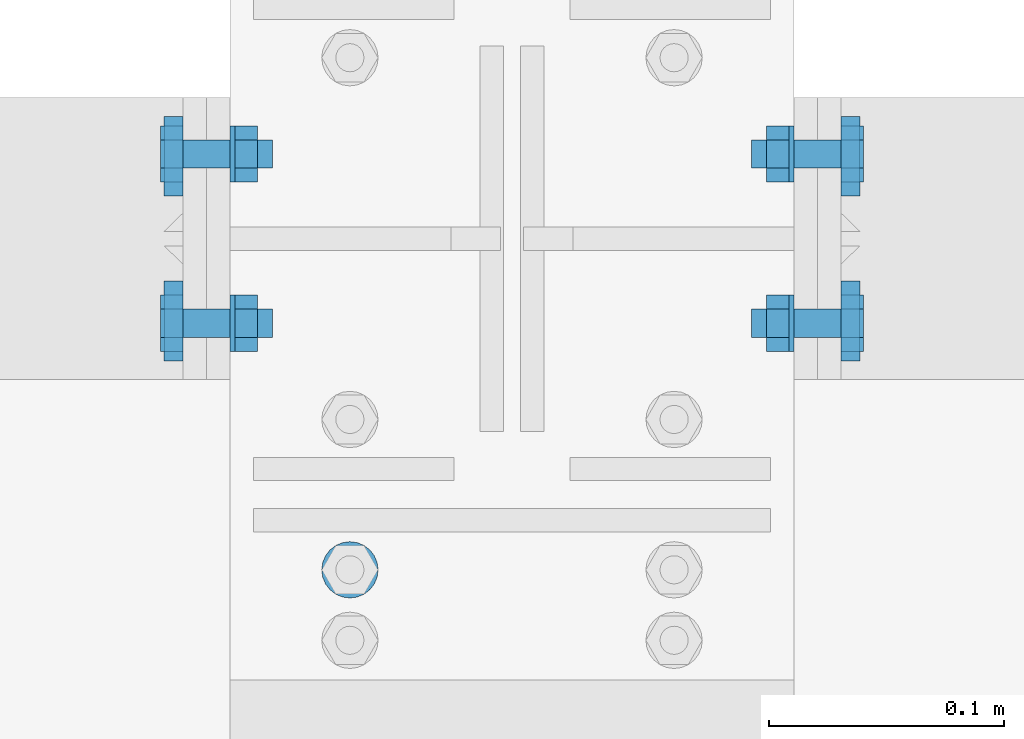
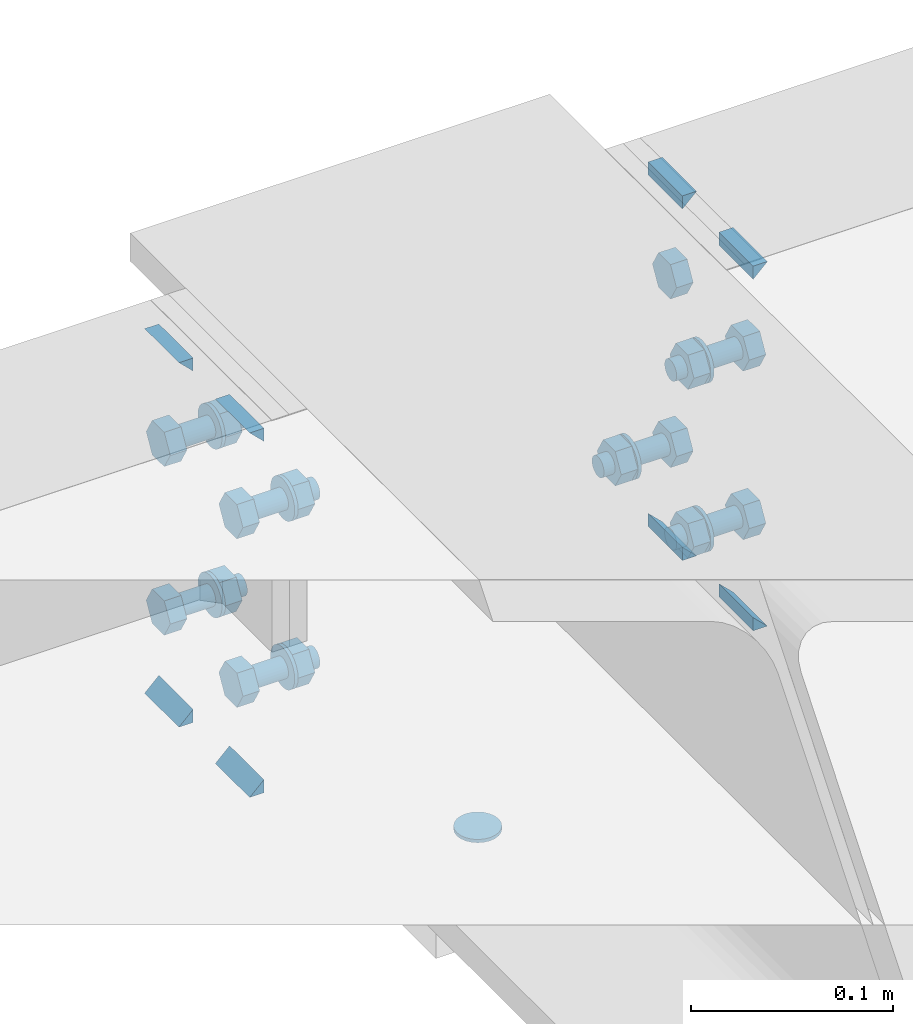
# One storey, part 61 of 66: 30 mechanical fasteners, 16 fasteners.
"""IFC4 building model written with IfcOpenShell, lengths in metres."""

from ifc_helpers import new_model, si_unit, frame, origin_with_axes, place, context, project, spatial, polyline, outline, extrude, type_object, element, save


model = new_model("IFC4")

# Units and contexts
model_context = context("Model", 3, precision=1e-05, world=origin_with_axes())
ifc_project = project(units=[si_unit("LENGTHUNIT", "METRE"), si_unit("AREAUNIT", "SQUARE_METRE"), si_unit("VOLUMEUNIT", "CUBIC_METRE"), si_unit("MASSUNIT", "GRAM", prefix="KILO"), si_unit("TIMEUNIT", "SECOND"), si_unit("PLANEANGLEUNIT", "RADIAN"), si_unit("SOLIDANGLEUNIT", "STERADIAN"), si_unit("THERMODYNAMICTEMPERATUREUNIT", "DEGREE_CELSIUS")], contexts=[model_context])

# Site, building, storey
placement_1 = place(None, origin_with_axes())
site = spatial("IfcSite", under=ifc_project, at=placement_1, Name="Italia", CompositionType="ELEMENT")
building = spatial("IfcBuilding", under=site, at=placement_1, Name="Uffici", CompositionType="ELEMENT")
storey_placement = place(None, frame((0.0, 0.0, 3.299999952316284), z_axis=(0.0, 0.0, 1.0), x_axis=(1.0, 0.0, 0.0)))
storey = spatial("IfcBuildingStorey", under=building, at=storey_placement, Name="Storey 1", CompositionType="ELEMENT", Elevation=3.299999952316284)

# Mechanical fastener
mechanical_fastener_type_1 = type_object("IfcMechanicalFastenerType", Name="Collegamenti 0111_0011 0112_0012 0113_0013 0114_0014 0115_0015", PredefinedType="BOLT")
placement_2 = place(placement_1, origin_with_axes())
mechanical_fastener_1_placement = place(placement_2, origin_with_axes())
element("IfcMechanicalFastener", 1, at=mechanical_fastener_1_placement, inside=storey, type_object=mechanical_fastener_type_1, Name="Collegamenti 0111_0011 0112_0012 0113_0013 0114_0014 0115_0015", NominalDiameter=0.024, context=model_context, shape_type="SweptSolid", body=[
    extrude(outline(polyline([(0.0, 0.0), (-0.000409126, -0.00310612), (-0.00160789, -0.00599957), (-0.00351477, -0.00848484), (-0.00600004, -0.0103922), (-0.00889444, -0.011591), (-0.0120001, -0.0120001), (-0.0151057, -0.011591), (-0.0180001, -0.0103922), (-0.0204854, -0.00848484), (-0.0223923, -0.00599957), (-0.023591, -0.00310612), (-0.0240002, 0.0), (-0.023591, 0.00310612), (-0.0223923, 0.00599957), (-0.0204854, 0.00848484), (-0.0180001, 0.0103922), (-0.0151057, 0.011591), (-0.0120001, 0.0120001), (-0.00889444, 0.011591), (-0.00600004, 0.0103922), (-0.00351477, 0.00848484), (-0.00160789, 0.00599957), (-0.000409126, 0.00310612), (0.0, 0.0)])), frame((9.386, 5.261, 3.079), z_axis=(0.0, 0.0, -1.0), x_axis=(0.0, 1.0, 0.0)), (0.0, 0.0, 1.0), 0.00200009),
])

# Fasteners
fastener_type_1 = type_object("IfcFastenerType", Name="Collegamento 0114_0113", PredefinedType="WELD")
fastener_1_placement = place(placement_2, origin_with_axes())
element("IfcFastener", 2, at=fastener_1_placement, inside=storey, type_object=fastener_type_1, Name="Collegamento 0114_0113", context=model_context, shape_type="SweptSolid", body=[
    extrude(outline(polyline([(0.0, 0.0), (-0.00817299, 0.00792813), (0.0, 0.00792813), (0.0, 0.0)])), frame((9.31505, 5.37195, 3.28232), z_axis=(0.0, -1.0, 0.0), x_axis=(1.0, 0.0, 0.0)), (0.0, 0.0, 1.0), 0.0340004),
])
fastener_type_2 = type_object("IfcFastenerType", Name="Collegamento 0114_0113", PredefinedType="WELD")
fastener_2_placement = place(placement_2, origin_with_axes())
element("IfcFastener", 3, at=fastener_2_placement, inside=storey, type_object=fastener_type_2, Name="Collegamento 0114_0113", context=model_context, shape_type="SweptSolid", body=[
    extrude(outline(polyline([(0.0, 0.0), (0.00817299, -0.00792813), (0.0, -0.00792813), (0.0, 0.0)])), frame((9.31505, 5.33795, 3.07768), z_axis=(0.0, 1.0, 0.0), x_axis=(-1.0, 0.0, 0.0)), (0.0, 0.0, 1.0), 0.0340004),
])
fastener_type_3 = type_object("IfcFastenerType", Name="Collegamento 0114_0113", PredefinedType="WELD")
fastener_3_placement = place(placement_2, origin_with_axes())
element("IfcFastener", 4, at=fastener_3_placement, inside=storey, type_object=fastener_type_3, Name="Collegamento 0114_0113", context=model_context, shape_type="SweptSolid", body=[
    extrude(outline(polyline([(0.0, 0.0), (0.00817299, -0.00792813), (0.0, -0.00792813), (0.0, 0.0)])), frame((9.31505, 5.40805, 3.07768), z_axis=(0.0, 1.0, 0.0), x_axis=(-1.0, 0.0, 0.0)), (0.0, 0.0, 1.0), 0.0340004),
])
fastener_type_4 = type_object("IfcFastenerType", Name="Collegamento 0114_0113", PredefinedType="WELD")
fastener_4_placement = place(placement_2, origin_with_axes())
element("IfcFastener", 5, at=fastener_4_placement, inside=storey, type_object=fastener_type_4, Name="Collegamento 0114_0113", context=model_context, shape_type="SweptSolid", body=[
    extrude(outline(polyline([(0.0, 0.0), (-0.00817299, 0.00792813), (0.0, 0.00792813), (0.0, 0.0)])), frame((9.31505, 5.44205, 3.28232), z_axis=(0.0, -1.0, 0.0), x_axis=(1.0, 0.0, 0.0)), (0.0, 0.0, 1.0), 0.0340004),
])
fastener_type_5 = type_object("IfcFastenerType", Name="Collegamento 0114_0113", PredefinedType="WELD")
fastener_5_placement = place(placement_2, origin_with_axes())
element("IfcFastener", 6, at=fastener_5_placement, inside=storey, type_object=fastener_type_5, Name="Collegamento 0114_0113", context=model_context, shape_type="SweptSolid", body=[
    extrude(outline(polyline([(0.0, 0.0), (-0.00817299, 0.00792813), (0.0, 0.00792813), (0.0, 0.0)])), frame((9.31505, 5.37195, 3.28232), z_axis=(0.0, -1.0, 0.0), x_axis=(1.0, 0.0, 0.0)), (0.0, 0.0, 1.0), 0.0340004),
])
fastener_type_6 = type_object("IfcFastenerType", Name="Collegamento 0114_0113", PredefinedType="WELD")
fastener_6_placement = place(placement_2, origin_with_axes())
element("IfcFastener", 7, at=fastener_6_placement, inside=storey, type_object=fastener_type_6, Name="Collegamento 0114_0113", context=model_context, shape_type="SweptSolid", body=[
    extrude(outline(polyline([(0.0, 0.0), (0.00817299, -0.00792813), (0.0, -0.00792813), (0.0, 0.0)])), frame((9.31505, 5.33795, 3.07768), z_axis=(0.0, 1.0, 0.0), x_axis=(-1.0, 0.0, 0.0)), (0.0, 0.0, 1.0), 0.0340004),
])
fastener_type_7 = type_object("IfcFastenerType", Name="Collegamento 0114_0113", PredefinedType="WELD")
fastener_7_placement = place(placement_2, origin_with_axes())
element("IfcFastener", 8, at=fastener_7_placement, inside=storey, type_object=fastener_type_7, Name="Collegamento 0114_0113", context=model_context, shape_type="SweptSolid", body=[
    extrude(outline(polyline([(0.0, 0.0), (0.00817299, -0.00792813), (0.0, -0.00792813), (0.0, 0.0)])), frame((9.31505, 5.40805, 3.07768), z_axis=(0.0, 1.0, 0.0), x_axis=(-1.0, 0.0, 0.0)), (0.0, 0.0, 1.0), 0.0340004),
])
fastener_type_8 = type_object("IfcFastenerType", Name="Collegamento 0114_0113", PredefinedType="WELD")
fastener_8_placement = place(placement_2, origin_with_axes())
element("IfcFastener", 9, at=fastener_8_placement, inside=storey, type_object=fastener_type_8, Name="Collegamento 0114_0113", context=model_context, shape_type="SweptSolid", body=[
    extrude(outline(polyline([(0.0, 0.0), (-0.00817299, 0.00792813), (0.0, 0.00792813), (0.0, 0.0)])), frame((9.31505, 5.44205, 3.28232), z_axis=(0.0, -1.0, 0.0), x_axis=(1.0, 0.0, 0.0)), (0.0, 0.0, 1.0), 0.0340004),
])

# Mechanical fasteners
mechanical_fastener_type_2 = type_object("IfcMechanicalFastenerType", Name="Collegamento 0114_0113", PredefinedType="BOLT")
mechanical_fastener_2_placement = place(placement_2, origin_with_axes())
element("IfcMechanicalFastener", 10, at=mechanical_fastener_2_placement, inside=storey, type_object=mechanical_fastener_type_2, Name="Collegamento 0114_0113", NominalDiameter=0.0119996, context=model_context, shape_type="SweptSolid", body=[
    extrude(outline(polyline([(0.0, 0.0), (-0.0119996, 0.0), (-0.0179996, 0.0103922), (-0.0119996, 0.0207846), (0.0, 0.0207846), (0.00600004, 0.0103922), (0.0, 0.0)])), frame((9.315, 5.42, 3.11861), z_axis=(-1.0, 0.0, 0.0), x_axis=(0.0, -1.0, 0.0)), (0.0, 0.0, 1.0), 0.00959969),
])
mechanical_fastener_type_3 = type_object("IfcMechanicalFastenerType", Name="Collegamento 0114_0113", PredefinedType="BOLT")
mechanical_fastener_3_placement = place(placement_2, origin_with_axes())
element("IfcMechanicalFastener", 11, at=mechanical_fastener_3_placement, inside=storey, type_object=mechanical_fastener_type_3, Name="Collegamento 0114_0113", NominalDiameter=0.012, context=model_context, shape_type="SweptSolid", body=[
    extrude(outline(polyline([(0.0, 0.0), (-0.000204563, -0.00155282), (-0.000803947, -0.00300002), (-0.00175762, -0.00424266), (-0.00300026, -0.00519609), (-0.00444698, -0.00579548), (-0.00600004, -0.00600004), (-0.0075531, -0.00579548), (-0.00899982, -0.00519609), (-0.0102425, -0.00424266), (-0.0111961, -0.00300002), (-0.0117955, -0.00155282), (-0.0120001, 0.0), (-0.0117955, 0.00155282), (-0.0111961, 0.00300002), (-0.0102425, 0.00424266), (-0.00899982, 0.00519609), (-0.0075531, 0.00579548), (-0.00600004, 0.00600004), (-0.00444698, 0.00579548), (-0.00300026, 0.00519609), (-0.00175762, 0.00424266), (-0.000803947, 0.00300002), (-0.000204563, 0.00155282), (0.0, 0.0)])), frame((9.353, 5.42, 3.129), z_axis=(-1.0, 0.0, 0.0), x_axis=(0.0, -1.0, 0.0)), (0.0, 0.0, 1.0), 0.0380001),
])
mechanical_fastener_type_4 = type_object("IfcMechanicalFastenerType", Name="Collegamento 0114_0113", PredefinedType="BOLT")
mechanical_fastener_4_placement = place(placement_2, origin_with_axes())
element("IfcMechanicalFastener", 12, at=mechanical_fastener_4_placement, inside=storey, type_object=mechanical_fastener_type_4, Name="Collegamento 0114_0113", NominalDiameter=0.0119996, context=model_context, shape_type="SweptSolid", body=[
    extrude(outline(polyline([(0.0, 0.0), (-0.0119996, 0.0), (-0.0179996, 0.0103922), (-0.0119996, 0.0207846), (0.0, 0.0207846), (0.00600004, 0.0103922), (0.0, 0.0)])), frame((9.3466, 5.42, 3.11861), z_axis=(-1.0, 0.0, 0.0), x_axis=(0.0, -1.0, 0.0)), (0.0, 0.0, 1.0), 0.00959969),
])
mechanical_fastener_type_5 = type_object("IfcMechanicalFastenerType", Name="Collegamento 0114_0113", PredefinedType="BOLT")
mechanical_fastener_5_placement = place(placement_2, origin_with_axes())
element("IfcMechanicalFastener", 13, at=mechanical_fastener_5_placement, inside=storey, type_object=mechanical_fastener_type_5, Name="Collegamento 0114_0113", NominalDiameter=0.024, context=model_context, shape_type="SweptSolid", body=[
    extrude(outline(polyline([(0.0, 0.0), (-0.000409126, -0.00310588), (-0.00160789, -0.00600004), (-0.00351477, -0.00848532), (-0.00600004, -0.0103922), (-0.00889444, -0.0115912), (-0.0120001, -0.0120001), (-0.0151057, -0.0115912), (-0.0180001, -0.0103922), (-0.0204854, -0.00848532), (-0.0223923, -0.00600004), (-0.023591, -0.00310588), (-0.0240002, 0.0), (-0.023591, 0.00310588), (-0.0223923, 0.00600004), (-0.0204854, 0.00848532), (-0.0180001, 0.0103922), (-0.0151057, 0.0115912), (-0.0120001, 0.0120001), (-0.00889444, 0.0115912), (-0.00600004, 0.0103922), (-0.00351477, 0.00848532), (-0.00160789, 0.00600004), (-0.000409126, 0.00310588), (0.0, 0.0)])), frame((9.337, 5.414, 3.129), z_axis=(-1.0, 0.0, 0.0), x_axis=(0.0, -1.0, 0.0)), (0.0, 0.0, 1.0), 0.00199986),
])
mechanical_fastener_type_6 = type_object("IfcMechanicalFastenerType", Name="Collegamento 0114_0113", PredefinedType="BOLT")
mechanical_fastener_6_placement = place(placement_2, origin_with_axes())
element("IfcMechanicalFastener", 14, at=mechanical_fastener_6_placement, inside=storey, type_object=mechanical_fastener_type_6, Name="Collegamento 0114_0113", NominalDiameter=0.0119996, context=model_context, shape_type="SweptSolid", body=[
    extrude(outline(polyline([(0.0, 0.0), (-0.0119996, 0.0), (-0.0179996, 0.0103922), (-0.0119996, 0.0207846), (0.0, 0.0207846), (0.00600004, 0.0103922), (0.0, 0.0)])), frame((9.315, 5.348, 3.11861), z_axis=(-1.0, 0.0, 0.0), x_axis=(0.0, -1.0, 0.0)), (0.0, 0.0, 1.0), 0.00959969),
])
mechanical_fastener_type_7 = type_object("IfcMechanicalFastenerType", Name="Collegamento 0114_0113", PredefinedType="BOLT")
mechanical_fastener_7_placement = place(placement_2, origin_with_axes())
element("IfcMechanicalFastener", 15, at=mechanical_fastener_7_placement, inside=storey, type_object=mechanical_fastener_type_7, Name="Collegamento 0114_0113", NominalDiameter=0.012, context=model_context, shape_type="SweptSolid", body=[
    extrude(outline(polyline([(0.0, 0.0), (-0.000204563, -0.00155282), (-0.000803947, -0.00300002), (-0.00175762, -0.00424266), (-0.00300026, -0.00519609), (-0.00444698, -0.00579548), (-0.00600004, -0.00600004), (-0.0075531, -0.00579548), (-0.00899982, -0.00519609), (-0.0102425, -0.00424266), (-0.0111961, -0.00300002), (-0.0117955, -0.00155282), (-0.0120001, 0.0), (-0.0117955, 0.00155282), (-0.0111961, 0.00300002), (-0.0102425, 0.00424266), (-0.00899982, 0.00519609), (-0.0075531, 0.00579548), (-0.00600004, 0.00600004), (-0.00444698, 0.00579548), (-0.00300026, 0.00519609), (-0.00175762, 0.00424266), (-0.000803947, 0.00300002), (-0.000204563, 0.00155282), (0.0, 0.0)])), frame((9.353, 5.348, 3.129), z_axis=(-1.0, 0.0, 0.0), x_axis=(0.0, -1.0, 0.0)), (0.0, 0.0, 1.0), 0.0380001),
])
mechanical_fastener_type_8 = type_object("IfcMechanicalFastenerType", Name="Collegamento 0114_0113", PredefinedType="BOLT")
mechanical_fastener_8_placement = place(placement_2, origin_with_axes())
element("IfcMechanicalFastener", 16, at=mechanical_fastener_8_placement, inside=storey, type_object=mechanical_fastener_type_8, Name="Collegamento 0114_0113", NominalDiameter=0.0119996, context=model_context, shape_type="SweptSolid", body=[
    extrude(outline(polyline([(0.0, 0.0), (-0.0119996, 0.0), (-0.0179996, 0.0103922), (-0.0119996, 0.0207846), (0.0, 0.0207846), (0.00600004, 0.0103922), (0.0, 0.0)])), frame((9.3466, 5.348, 3.11861), z_axis=(-1.0, 0.0, 0.0), x_axis=(0.0, -1.0, 0.0)), (0.0, 0.0, 1.0), 0.00959969),
])
mechanical_fastener_type_9 = type_object("IfcMechanicalFastenerType", Name="Collegamento 0114_0113", PredefinedType="BOLT")
mechanical_fastener_9_placement = place(placement_2, origin_with_axes())
element("IfcMechanicalFastener", 17, at=mechanical_fastener_9_placement, inside=storey, type_object=mechanical_fastener_type_9, Name="Collegamento 0114_0113", NominalDiameter=0.024, context=model_context, shape_type="SweptSolid", body=[
    extrude(outline(polyline([(0.0, 0.0), (-0.000409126, -0.00310588), (-0.00160789, -0.00600004), (-0.00351477, -0.00848532), (-0.00600004, -0.0103922), (-0.00889444, -0.0115912), (-0.0120001, -0.0120001), (-0.0151057, -0.0115912), (-0.0180001, -0.0103922), (-0.0204854, -0.00848532), (-0.0223923, -0.00600004), (-0.023591, -0.00310588), (-0.0240002, 0.0), (-0.023591, 0.00310588), (-0.0223923, 0.00600004), (-0.0204854, 0.00848532), (-0.0180001, 0.0103922), (-0.0151057, 0.0115912), (-0.0120001, 0.0120001), (-0.00889444, 0.0115912), (-0.00600004, 0.0103922), (-0.00351477, 0.00848532), (-0.00160789, 0.00600004), (-0.000409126, 0.00310588), (0.0, 0.0)])), frame((9.337, 5.342, 3.129), z_axis=(-1.0, 0.0, 0.0), x_axis=(0.0, -1.0, 0.0)), (0.0, 0.0, 1.0), 0.00199986),
])
mechanical_fastener_type_10 = type_object("IfcMechanicalFastenerType", Name="Collegamento 0114_0113", PredefinedType="BOLT")
mechanical_fastener_10_placement = place(placement_2, origin_with_axes())
element("IfcMechanicalFastener", 18, at=mechanical_fastener_10_placement, inside=storey, type_object=mechanical_fastener_type_10, Name="Collegamento 0114_0113", NominalDiameter=0.0119996, context=model_context, shape_type="SweptSolid", body=[
    extrude(outline(polyline([(0.0, 0.0), (-0.0119996, 0.0), (-0.0179996, 0.0103924), (-0.0119996, 0.0207846), (0.0, 0.0207846), (0.00600004, 0.0103924), (0.0, 0.0)])), frame((9.315, 5.42, 3.22061), z_axis=(-1.0, 0.0, 0.0), x_axis=(0.0, -1.0, 0.0)), (0.0, 0.0, 1.0), 0.00959969),
])
mechanical_fastener_type_11 = type_object("IfcMechanicalFastenerType", Name="Collegamento 0114_0113", PredefinedType="BOLT")
mechanical_fastener_11_placement = place(placement_2, origin_with_axes())
element("IfcMechanicalFastener", 19, at=mechanical_fastener_11_placement, inside=storey, type_object=mechanical_fastener_type_11, Name="Collegamento 0114_0113", NominalDiameter=0.012, context=model_context, shape_type="SweptSolid", body=[
    extrude(outline(polyline([(0.0, 0.0), (-0.000204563, -0.00155282), (-0.000803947, -0.00300002), (-0.00175762, -0.00424266), (-0.00300026, -0.00519609), (-0.00444698, -0.00579548), (-0.00600004, -0.00600004), (-0.0075531, -0.00579548), (-0.00899982, -0.00519609), (-0.0102425, -0.00424266), (-0.0111961, -0.00300002), (-0.0117955, -0.00155282), (-0.0120001, 0.0), (-0.0117955, 0.00155282), (-0.0111961, 0.00300002), (-0.0102425, 0.00424266), (-0.00899982, 0.00519609), (-0.0075531, 0.00579548), (-0.00600004, 0.00600004), (-0.00444698, 0.00579548), (-0.00300026, 0.00519609), (-0.00175762, 0.00424266), (-0.000803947, 0.00300002), (-0.000204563, 0.00155282), (0.0, 0.0)])), frame((9.353, 5.42, 3.231), z_axis=(-1.0, 0.0, 0.0), x_axis=(0.0, -1.0, 0.0)), (0.0, 0.0, 1.0), 0.0380001),
])
mechanical_fastener_type_12 = type_object("IfcMechanicalFastenerType", Name="Collegamento 0114_0113", PredefinedType="BOLT")
mechanical_fastener_12_placement = place(placement_2, origin_with_axes())
element("IfcMechanicalFastener", 20, at=mechanical_fastener_12_placement, inside=storey, type_object=mechanical_fastener_type_12, Name="Collegamento 0114_0113", NominalDiameter=0.0119996, context=model_context, shape_type="SweptSolid", body=[
    extrude(outline(polyline([(0.0, 0.0), (-0.0119996, 0.0), (-0.0179996, 0.0103924), (-0.0119996, 0.0207846), (0.0, 0.0207846), (0.00600004, 0.0103924), (0.0, 0.0)])), frame((9.3466, 5.42, 3.22061), z_axis=(-1.0, 0.0, 0.0), x_axis=(0.0, -1.0, 0.0)), (0.0, 0.0, 1.0), 0.00959969),
])
mechanical_fastener_type_13 = type_object("IfcMechanicalFastenerType", Name="Collegamento 0114_0113", PredefinedType="BOLT")
mechanical_fastener_13_placement = place(placement_2, origin_with_axes())
element("IfcMechanicalFastener", 21, at=mechanical_fastener_13_placement, inside=storey, type_object=mechanical_fastener_type_13, Name="Collegamento 0114_0113", NominalDiameter=0.024, context=model_context, shape_type="SweptSolid", body=[
    extrude(outline(polyline([(0.0, 0.0), (-0.000409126, -0.00310588), (-0.00160789, -0.00600004), (-0.00351477, -0.00848532), (-0.00600004, -0.0103922), (-0.00889444, -0.0115912), (-0.0120001, -0.0120001), (-0.0151057, -0.0115912), (-0.0180001, -0.0103922), (-0.0204854, -0.00848532), (-0.0223923, -0.00600004), (-0.023591, -0.00310588), (-0.0240002, 0.0), (-0.023591, 0.00310588), (-0.0223923, 0.00600004), (-0.0204854, 0.00848532), (-0.0180001, 0.0103922), (-0.0151057, 0.0115912), (-0.0120001, 0.0120001), (-0.00889444, 0.0115912), (-0.00600004, 0.0103922), (-0.00351477, 0.00848532), (-0.00160789, 0.00600004), (-0.000409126, 0.00310588), (0.0, 0.0)])), frame((9.337, 5.414, 3.231), z_axis=(-1.0, 0.0, 0.0), x_axis=(0.0, -1.0, 0.0)), (0.0, 0.0, 1.0), 0.00199986),
])
mechanical_fastener_type_14 = type_object("IfcMechanicalFastenerType", Name="Collegamento 0114_0113", PredefinedType="BOLT")
mechanical_fastener_14_placement = place(placement_2, origin_with_axes())
element("IfcMechanicalFastener", 22, at=mechanical_fastener_14_placement, inside=storey, type_object=mechanical_fastener_type_14, Name="Collegamento 0114_0113", NominalDiameter=0.0119996, context=model_context, shape_type="SweptSolid", body=[
    extrude(outline(polyline([(0.0, 0.0), (-0.0119996, 0.0), (-0.0179996, 0.0103924), (-0.0119996, 0.0207846), (0.0, 0.0207846), (0.00600004, 0.0103924), (0.0, 0.0)])), frame((9.315, 5.348, 3.22061), z_axis=(-1.0, 0.0, 0.0), x_axis=(0.0, -1.0, 0.0)), (0.0, 0.0, 1.0), 0.00959969),
])
mechanical_fastener_type_15 = type_object("IfcMechanicalFastenerType", Name="Collegamento 0114_0113", PredefinedType="BOLT")
mechanical_fastener_15_placement = place(placement_2, origin_with_axes())
element("IfcMechanicalFastener", 23, at=mechanical_fastener_15_placement, inside=storey, type_object=mechanical_fastener_type_15, Name="Collegamento 0114_0113", NominalDiameter=0.012, context=model_context, shape_type="SweptSolid", body=[
    extrude(outline(polyline([(0.0, 0.0), (-0.000204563, -0.00155282), (-0.000803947, -0.00300002), (-0.00175762, -0.00424266), (-0.00300026, -0.00519609), (-0.00444698, -0.00579548), (-0.00600004, -0.00600004), (-0.0075531, -0.00579548), (-0.00899982, -0.00519609), (-0.0102425, -0.00424266), (-0.0111961, -0.00300002), (-0.0117955, -0.00155282), (-0.0120001, 0.0), (-0.0117955, 0.00155282), (-0.0111961, 0.00300002), (-0.0102425, 0.00424266), (-0.00899982, 0.00519609), (-0.0075531, 0.00579548), (-0.00600004, 0.00600004), (-0.00444698, 0.00579548), (-0.00300026, 0.00519609), (-0.00175762, 0.00424266), (-0.000803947, 0.00300002), (-0.000204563, 0.00155282), (0.0, 0.0)])), frame((9.353, 5.348, 3.231), z_axis=(-1.0, 0.0, 0.0), x_axis=(0.0, -1.0, 0.0)), (0.0, 0.0, 1.0), 0.0380001),
])
mechanical_fastener_type_16 = type_object("IfcMechanicalFastenerType", Name="Collegamento 0114_0113", PredefinedType="BOLT")
mechanical_fastener_16_placement = place(placement_2, origin_with_axes())
element("IfcMechanicalFastener", 24, at=mechanical_fastener_16_placement, inside=storey, type_object=mechanical_fastener_type_16, Name="Collegamento 0114_0113", NominalDiameter=0.0119996, context=model_context, shape_type="SweptSolid", body=[
    extrude(outline(polyline([(0.0, 0.0), (-0.0119996, 0.0), (-0.0179996, 0.0103924), (-0.0119996, 0.0207846), (0.0, 0.0207846), (0.00600004, 0.0103924), (0.0, 0.0)])), frame((9.3466, 5.348, 3.22061), z_axis=(-1.0, 0.0, 0.0), x_axis=(0.0, -1.0, 0.0)), (0.0, 0.0, 1.0), 0.00959969),
])
mechanical_fastener_type_17 = type_object("IfcMechanicalFastenerType", Name="Collegamento 0114_0113", PredefinedType="BOLT")
mechanical_fastener_17_placement = place(placement_2, origin_with_axes())
element("IfcMechanicalFastener", 25, at=mechanical_fastener_17_placement, inside=storey, type_object=mechanical_fastener_type_17, Name="Collegamento 0114_0113", NominalDiameter=0.024, context=model_context, shape_type="SweptSolid", body=[
    extrude(outline(polyline([(0.0, 0.0), (-0.000409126, -0.00310588), (-0.00160789, -0.00600004), (-0.00351477, -0.00848532), (-0.00600004, -0.0103922), (-0.00889444, -0.0115912), (-0.0120001, -0.0120001), (-0.0151057, -0.0115912), (-0.0180001, -0.0103922), (-0.0204854, -0.00848532), (-0.0223923, -0.00600004), (-0.023591, -0.00310588), (-0.0240002, 0.0), (-0.023591, 0.00310588), (-0.0223923, 0.00600004), (-0.0204854, 0.00848532), (-0.0180001, 0.0103922), (-0.0151057, 0.0115912), (-0.0120001, 0.0120001), (-0.00889444, 0.0115912), (-0.00600004, 0.0103922), (-0.00351477, 0.00848532), (-0.00160789, 0.00600004), (-0.000409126, 0.00310588), (0.0, 0.0)])), frame((9.337, 5.342, 3.231), z_axis=(-1.0, 0.0, 0.0), x_axis=(0.0, -1.0, 0.0)), (0.0, 0.0, 1.0), 0.00199986),
])

# Fasteners
fastener_type_9 = type_object("IfcFastenerType", Name="Collegamento 0114_0115", PredefinedType="WELD")
fastener_9_placement = place(placement_2, origin_with_axes())
element("IfcFastener", 26, at=fastener_9_placement, inside=storey, type_object=fastener_type_9, Name="Collegamento 0114_0115", context=model_context, shape_type="SweptSolid", body=[
    extrude(outline(polyline([(0.0, 0.0), (-0.00817299, 0.00792813), (0.0, 0.00792813), (0.0, 0.0)])), frame((9.59495, 5.33795, 3.28232), z_axis=(0.0, 1.0, 0.0), x_axis=(-1.0, 0.0, 0.0)), (0.0, 0.0, 1.0), 0.0340004),
])
fastener_type_10 = type_object("IfcFastenerType", Name="Collegamento 0114_0115", PredefinedType="WELD")
fastener_10_placement = place(placement_2, origin_with_axes())
element("IfcFastener", 27, at=fastener_10_placement, inside=storey, type_object=fastener_type_10, Name="Collegamento 0114_0115", context=model_context, shape_type="SweptSolid", body=[
    extrude(outline(polyline([(0.0, 0.0), (0.00817299, -0.00792813), (0.0, -0.00792813), (0.0, 0.0)])), frame((9.59495, 5.37195, 3.07768), z_axis=(0.0, -1.0, 0.0), x_axis=(1.0, 0.0, 0.0)), (0.0, 0.0, 1.0), 0.0340004),
])
fastener_type_11 = type_object("IfcFastenerType", Name="Collegamento 0114_0115", PredefinedType="WELD")
fastener_11_placement = place(placement_2, origin_with_axes())
element("IfcFastener", 28, at=fastener_11_placement, inside=storey, type_object=fastener_type_11, Name="Collegamento 0114_0115", context=model_context, shape_type="SweptSolid", body=[
    extrude(outline(polyline([(0.0, 0.0), (0.00817299, -0.00792813), (0.0, -0.00792813), (0.0, 0.0)])), frame((9.59495, 5.44205, 3.07768), z_axis=(0.0, -1.0, 0.0), x_axis=(1.0, 0.0, 0.0)), (0.0, 0.0, 1.0), 0.0340004),
])
fastener_type_12 = type_object("IfcFastenerType", Name="Collegamento 0114_0115", PredefinedType="WELD")
fastener_12_placement = place(placement_2, origin_with_axes())
element("IfcFastener", 29, at=fastener_12_placement, inside=storey, type_object=fastener_type_12, Name="Collegamento 0114_0115", context=model_context, shape_type="SweptSolid", body=[
    extrude(outline(polyline([(0.0, 0.0), (-0.00817299, 0.00792813), (0.0, 0.00792813), (0.0, 0.0)])), frame((9.59495, 5.40805, 3.28232), z_axis=(0.0, 1.0, 0.0), x_axis=(-1.0, 0.0, 0.0)), (0.0, 0.0, 1.0), 0.0340004),
])
fastener_type_13 = type_object("IfcFastenerType", Name="Collegamento 0114_0115", PredefinedType="WELD")
fastener_13_placement = place(placement_2, origin_with_axes())
element("IfcFastener", 30, at=fastener_13_placement, inside=storey, type_object=fastener_type_13, Name="Collegamento 0114_0115", context=model_context, shape_type="SweptSolid", body=[
    extrude(outline(polyline([(0.0, 0.0), (-0.00817299, 0.00792813), (0.0, 0.00792813), (0.0, 0.0)])), frame((9.59495, 5.33795, 3.28232), z_axis=(0.0, 1.0, 0.0), x_axis=(-1.0, 0.0, 0.0)), (0.0, 0.0, 1.0), 0.0340004),
])
fastener_type_14 = type_object("IfcFastenerType", Name="Collegamento 0114_0115", PredefinedType="WELD")
fastener_14_placement = place(placement_2, origin_with_axes())
element("IfcFastener", 31, at=fastener_14_placement, inside=storey, type_object=fastener_type_14, Name="Collegamento 0114_0115", context=model_context, shape_type="SweptSolid", body=[
    extrude(outline(polyline([(0.0, 0.0), (0.00817299, -0.00792813), (0.0, -0.00792813), (0.0, 0.0)])), frame((9.59495, 5.37195, 3.07768), z_axis=(0.0, -1.0, 0.0), x_axis=(1.0, 0.0, 0.0)), (0.0, 0.0, 1.0), 0.0340004),
])
fastener_type_15 = type_object("IfcFastenerType", Name="Collegamento 0114_0115", PredefinedType="WELD")
fastener_15_placement = place(placement_2, origin_with_axes())
element("IfcFastener", 32, at=fastener_15_placement, inside=storey, type_object=fastener_type_15, Name="Collegamento 0114_0115", context=model_context, shape_type="SweptSolid", body=[
    extrude(outline(polyline([(0.0, 0.0), (0.00817299, -0.00792813), (0.0, -0.00792813), (0.0, 0.0)])), frame((9.59495, 5.44205, 3.07768), z_axis=(0.0, -1.0, 0.0), x_axis=(1.0, 0.0, 0.0)), (0.0, 0.0, 1.0), 0.0340004),
])
fastener_type_16 = type_object("IfcFastenerType", Name="Collegamento 0114_0115", PredefinedType="WELD")
fastener_16_placement = place(placement_2, origin_with_axes())
element("IfcFastener", 33, at=fastener_16_placement, inside=storey, type_object=fastener_type_16, Name="Collegamento 0114_0115", context=model_context, shape_type="SweptSolid", body=[
    extrude(outline(polyline([(0.0, 0.0), (-0.00817299, 0.00792813), (0.0, 0.00792813), (0.0, 0.0)])), frame((9.59495, 5.40805, 3.28232), z_axis=(0.0, 1.0, 0.0), x_axis=(-1.0, 0.0, 0.0)), (0.0, 0.0, 1.0), 0.0340004),
])

# Mechanical fasteners
mechanical_fastener_type_18 = type_object("IfcMechanicalFastenerType", Name="Collegamento 0114_0115", PredefinedType="BOLT")
mechanical_fastener_18_placement = place(placement_2, origin_with_axes())
element("IfcMechanicalFastener", 34, at=mechanical_fastener_18_placement, inside=storey, type_object=mechanical_fastener_type_18, Name="Collegamento 0114_0115", NominalDiameter=0.0119996, context=model_context, shape_type="SweptSolid", body=[
    extrude(outline(polyline([(0.0, 0.0), (-0.0119996, 0.0), (-0.0179996, 0.0103922), (-0.0119996, 0.0207846), (0.0, 0.0207846), (0.00600004, 0.0103922), (0.0, 0.0)])), frame((9.595, 5.36, 3.11861), z_axis=(1.0, 0.0, 0.0), x_axis=(0.0, 1.0, 0.0)), (0.0, 0.0, 1.0), 0.00959969),
])
mechanical_fastener_type_19 = type_object("IfcMechanicalFastenerType", Name="Collegamento 0114_0115", PredefinedType="BOLT")
mechanical_fastener_19_placement = place(placement_2, origin_with_axes())
element("IfcMechanicalFastener", 35, at=mechanical_fastener_19_placement, inside=storey, type_object=mechanical_fastener_type_19, Name="Collegamento 0114_0115", NominalDiameter=0.012, context=model_context, shape_type="SweptSolid", body=[
    extrude(outline(polyline([(0.0, 0.0), (-0.000204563, -0.00155282), (-0.000803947, -0.00300002), (-0.00175762, -0.00424266), (-0.00300026, -0.00519609), (-0.00444698, -0.00579548), (-0.00600004, -0.00600004), (-0.0075531, -0.00579548), (-0.00899982, -0.00519609), (-0.0102425, -0.00424266), (-0.0111961, -0.00300002), (-0.0117955, -0.00155282), (-0.0120001, 0.0), (-0.0117955, 0.00155282), (-0.0111961, 0.00300002), (-0.0102425, 0.00424266), (-0.00899982, 0.00519609), (-0.0075531, 0.00579548), (-0.00600004, 0.00600004), (-0.00444698, 0.00579548), (-0.00300026, 0.00519609), (-0.00175762, 0.00424266), (-0.000803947, 0.00300002), (-0.000204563, 0.00155282), (0.0, 0.0)])), frame((9.557, 5.36, 3.129), z_axis=(1.0, 0.0, 0.0), x_axis=(0.0, 1.0, 0.0)), (0.0, 0.0, 1.0), 0.0380001),
])
mechanical_fastener_type_20 = type_object("IfcMechanicalFastenerType", Name="Collegamento 0114_0115", PredefinedType="BOLT")
mechanical_fastener_20_placement = place(placement_2, origin_with_axes())
element("IfcMechanicalFastener", 36, at=mechanical_fastener_20_placement, inside=storey, type_object=mechanical_fastener_type_20, Name="Collegamento 0114_0115", NominalDiameter=0.0119996, context=model_context, shape_type="SweptSolid", body=[
    extrude(outline(polyline([(0.0, 0.0), (-0.0119996, 0.0), (-0.0179996, 0.0103922), (-0.0119996, 0.0207846), (0.0, 0.0207846), (0.00600004, 0.0103922), (0.0, 0.0)])), frame((9.5634, 5.36, 3.11861), z_axis=(1.0, 0.0, 0.0), x_axis=(0.0, 1.0, 0.0)), (0.0, 0.0, 1.0), 0.00959969),
])
mechanical_fastener_type_21 = type_object("IfcMechanicalFastenerType", Name="Collegamento 0114_0115", PredefinedType="BOLT")
mechanical_fastener_21_placement = place(placement_2, origin_with_axes())
element("IfcMechanicalFastener", 37, at=mechanical_fastener_21_placement, inside=storey, type_object=mechanical_fastener_type_21, Name="Collegamento 0114_0115", NominalDiameter=0.024, context=model_context, shape_type="SweptSolid", body=[
    extrude(outline(polyline([(0.0, 0.0), (-0.000409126, -0.00310588), (-0.00160789, -0.00600004), (-0.00351477, -0.00848532), (-0.00600004, -0.0103922), (-0.00889444, -0.0115912), (-0.0120001, -0.0120001), (-0.0151057, -0.0115912), (-0.0180001, -0.0103922), (-0.0204854, -0.00848532), (-0.0223923, -0.00600004), (-0.023591, -0.00310588), (-0.0240002, 0.0), (-0.023591, 0.00310588), (-0.0223923, 0.00600004), (-0.0204854, 0.00848532), (-0.0180001, 0.0103922), (-0.0151057, 0.0115912), (-0.0120001, 0.0120001), (-0.00889444, 0.0115912), (-0.00600004, 0.0103922), (-0.00351477, 0.00848532), (-0.00160789, 0.00600004), (-0.000409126, 0.00310588), (0.0, 0.0)])), frame((9.573, 5.366, 3.129), z_axis=(1.0, 0.0, 0.0), x_axis=(0.0, 1.0, 0.0)), (0.0, 0.0, 1.0), 0.00199986),
])
mechanical_fastener_type_22 = type_object("IfcMechanicalFastenerType", Name="Collegamento 0114_0115", PredefinedType="BOLT")
mechanical_fastener_22_placement = place(placement_2, origin_with_axes())
element("IfcMechanicalFastener", 38, at=mechanical_fastener_22_placement, inside=storey, type_object=mechanical_fastener_type_22, Name="Collegamento 0114_0115", NominalDiameter=0.0119996, context=model_context, shape_type="SweptSolid", body=[
    extrude(outline(polyline([(0.0, 0.0), (-0.0119996, 0.0), (-0.0179996, 0.0103922), (-0.0119996, 0.0207846), (0.0, 0.0207846), (0.00600004, 0.0103922), (0.0, 0.0)])), frame((9.595, 5.432, 3.11861), z_axis=(1.0, 0.0, 0.0), x_axis=(0.0, 1.0, 0.0)), (0.0, 0.0, 1.0), 0.00959969),
])
mechanical_fastener_type_23 = type_object("IfcMechanicalFastenerType", Name="Collegamento 0114_0115", PredefinedType="BOLT")
mechanical_fastener_23_placement = place(placement_2, origin_with_axes())
element("IfcMechanicalFastener", 39, at=mechanical_fastener_23_placement, inside=storey, type_object=mechanical_fastener_type_23, Name="Collegamento 0114_0115", NominalDiameter=0.012, context=model_context, shape_type="SweptSolid", body=[
    extrude(outline(polyline([(0.0, 0.0), (-0.000204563, -0.00155282), (-0.000803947, -0.00300002), (-0.00175762, -0.00424266), (-0.00300026, -0.00519609), (-0.00444698, -0.00579548), (-0.00600004, -0.00600004), (-0.0075531, -0.00579548), (-0.00899982, -0.00519609), (-0.0102425, -0.00424266), (-0.0111961, -0.00300002), (-0.0117955, -0.00155282), (-0.0120001, 0.0), (-0.0117955, 0.00155282), (-0.0111961, 0.00300002), (-0.0102425, 0.00424266), (-0.00899982, 0.00519609), (-0.0075531, 0.00579548), (-0.00600004, 0.00600004), (-0.00444698, 0.00579548), (-0.00300026, 0.00519609), (-0.00175762, 0.00424266), (-0.000803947, 0.00300002), (-0.000204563, 0.00155282), (0.0, 0.0)])), frame((9.557, 5.432, 3.129), z_axis=(1.0, 0.0, 0.0), x_axis=(0.0, 1.0, 0.0)), (0.0, 0.0, 1.0), 0.0380001),
])
mechanical_fastener_type_24 = type_object("IfcMechanicalFastenerType", Name="Collegamento 0114_0115", PredefinedType="BOLT")
mechanical_fastener_24_placement = place(placement_2, origin_with_axes())
element("IfcMechanicalFastener", 40, at=mechanical_fastener_24_placement, inside=storey, type_object=mechanical_fastener_type_24, Name="Collegamento 0114_0115", NominalDiameter=0.0119996, context=model_context, shape_type="SweptSolid", body=[
    extrude(outline(polyline([(0.0, 0.0), (-0.0119996, 0.0), (-0.0179996, 0.0103922), (-0.0119996, 0.0207846), (0.0, 0.0207846), (0.00600004, 0.0103922), (0.0, 0.0)])), frame((9.5634, 5.432, 3.11861), z_axis=(1.0, 0.0, 0.0), x_axis=(0.0, 1.0, 0.0)), (0.0, 0.0, 1.0), 0.00959969),
])
mechanical_fastener_type_25 = type_object("IfcMechanicalFastenerType", Name="Collegamento 0114_0115", PredefinedType="BOLT")
mechanical_fastener_25_placement = place(placement_2, origin_with_axes())
element("IfcMechanicalFastener", 41, at=mechanical_fastener_25_placement, inside=storey, type_object=mechanical_fastener_type_25, Name="Collegamento 0114_0115", NominalDiameter=0.024, context=model_context, shape_type="SweptSolid", body=[
    extrude(outline(polyline([(0.0, 0.0), (-0.000409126, -0.00310588), (-0.00160789, -0.00600004), (-0.00351477, -0.00848532), (-0.00600004, -0.0103922), (-0.00889444, -0.0115912), (-0.0120001, -0.0120001), (-0.0151057, -0.0115912), (-0.0180001, -0.0103922), (-0.0204854, -0.00848532), (-0.0223923, -0.00600004), (-0.023591, -0.00310588), (-0.0240002, 0.0), (-0.023591, 0.00310588), (-0.0223923, 0.00600004), (-0.0204854, 0.00848532), (-0.0180001, 0.0103922), (-0.0151057, 0.0115912), (-0.0120001, 0.0120001), (-0.00889444, 0.0115912), (-0.00600004, 0.0103922), (-0.00351477, 0.00848532), (-0.00160789, 0.00600004), (-0.000409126, 0.00310588), (0.0, 0.0)])), frame((9.573, 5.438, 3.129), z_axis=(1.0, 0.0, 0.0), x_axis=(0.0, 1.0, 0.0)), (0.0, 0.0, 1.0), 0.00199986),
])
mechanical_fastener_type_26 = type_object("IfcMechanicalFastenerType", Name="Collegamento 0114_0115", PredefinedType="BOLT")
mechanical_fastener_26_placement = place(placement_2, origin_with_axes())
element("IfcMechanicalFastener", 42, at=mechanical_fastener_26_placement, inside=storey, type_object=mechanical_fastener_type_26, Name="Collegamento 0114_0115", NominalDiameter=0.0119996, context=model_context, shape_type="SweptSolid", body=[
    extrude(outline(polyline([(0.0, 0.0), (-0.0119996, 0.0), (-0.0179996, 0.0103924), (-0.0119996, 0.0207846), (0.0, 0.0207846), (0.00600004, 0.0103924), (0.0, 0.0)])), frame((9.595, 5.36, 3.22061), z_axis=(1.0, 0.0, 0.0), x_axis=(0.0, 1.0, 0.0)), (0.0, 0.0, 1.0), 0.00959969),
])
mechanical_fastener_type_27 = type_object("IfcMechanicalFastenerType", Name="Collegamento 0114_0115", PredefinedType="BOLT")
mechanical_fastener_27_placement = place(placement_2, origin_with_axes())
element("IfcMechanicalFastener", 43, at=mechanical_fastener_27_placement, inside=storey, type_object=mechanical_fastener_type_27, Name="Collegamento 0114_0115", NominalDiameter=0.012, context=model_context, shape_type="SweptSolid", body=[
    extrude(outline(polyline([(0.0, 0.0), (-0.000204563, -0.00155282), (-0.000803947, -0.00300002), (-0.00175762, -0.00424266), (-0.00300026, -0.00519609), (-0.00444698, -0.00579548), (-0.00600004, -0.00600004), (-0.0075531, -0.00579548), (-0.00899982, -0.00519609), (-0.0102425, -0.00424266), (-0.0111961, -0.00300002), (-0.0117955, -0.00155282), (-0.0120001, 0.0), (-0.0117955, 0.00155282), (-0.0111961, 0.00300002), (-0.0102425, 0.00424266), (-0.00899982, 0.00519609), (-0.0075531, 0.00579548), (-0.00600004, 0.00600004), (-0.00444698, 0.00579548), (-0.00300026, 0.00519609), (-0.00175762, 0.00424266), (-0.000803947, 0.00300002), (-0.000204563, 0.00155282), (0.0, 0.0)])), frame((9.557, 5.36, 3.231), z_axis=(1.0, 0.0, 0.0), x_axis=(0.0, 1.0, 0.0)), (0.0, 0.0, 1.0), 0.0380001),
])
mechanical_fastener_type_28 = type_object("IfcMechanicalFastenerType", Name="Collegamento 0114_0115", PredefinedType="BOLT")
mechanical_fastener_28_placement = place(placement_2, origin_with_axes())
element("IfcMechanicalFastener", 44, at=mechanical_fastener_28_placement, inside=storey, type_object=mechanical_fastener_type_28, Name="Collegamento 0114_0115", NominalDiameter=0.0119996, context=model_context, shape_type="SweptSolid", body=[
    extrude(outline(polyline([(0.0, 0.0), (-0.0119996, 0.0), (-0.0179996, 0.0103924), (-0.0119996, 0.0207846), (0.0, 0.0207846), (0.00600004, 0.0103924), (0.0, 0.0)])), frame((9.5634, 5.36, 3.22061), z_axis=(1.0, 0.0, 0.0), x_axis=(0.0, 1.0, 0.0)), (0.0, 0.0, 1.0), 0.00959969),
])
mechanical_fastener_type_29 = type_object("IfcMechanicalFastenerType", Name="Collegamento 0114_0115", PredefinedType="BOLT")
mechanical_fastener_29_placement = place(placement_2, origin_with_axes())
element("IfcMechanicalFastener", 45, at=mechanical_fastener_29_placement, inside=storey, type_object=mechanical_fastener_type_29, Name="Collegamento 0114_0115", NominalDiameter=0.024, context=model_context, shape_type="SweptSolid", body=[
    extrude(outline(polyline([(0.0, 0.0), (-0.000409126, -0.00310588), (-0.00160789, -0.00600004), (-0.00351477, -0.00848532), (-0.00600004, -0.0103922), (-0.00889444, -0.0115912), (-0.0120001, -0.0120001), (-0.0151057, -0.0115912), (-0.0180001, -0.0103922), (-0.0204854, -0.00848532), (-0.0223923, -0.00600004), (-0.023591, -0.00310588), (-0.0240002, 0.0), (-0.023591, 0.00310588), (-0.0223923, 0.00600004), (-0.0204854, 0.00848532), (-0.0180001, 0.0103922), (-0.0151057, 0.0115912), (-0.0120001, 0.0120001), (-0.00889444, 0.0115912), (-0.00600004, 0.0103922), (-0.00351477, 0.00848532), (-0.00160789, 0.00600004), (-0.000409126, 0.00310588), (0.0, 0.0)])), frame((9.573, 5.366, 3.231), z_axis=(1.0, 0.0, 0.0), x_axis=(0.0, 1.0, 0.0)), (0.0, 0.0, 1.0), 0.00199986),
])
mechanical_fastener_type_30 = type_object("IfcMechanicalFastenerType", Name="Collegamento 0114_0115", PredefinedType="BOLT")
mechanical_fastener_30_placement = place(placement_2, origin_with_axes())
element("IfcMechanicalFastener", 46, at=mechanical_fastener_30_placement, inside=storey, type_object=mechanical_fastener_type_30, Name="Collegamento 0114_0115", NominalDiameter=0.0119996, context=model_context, shape_type="SweptSolid", body=[
    extrude(outline(polyline([(0.0, 0.0), (-0.0119996, 0.0), (-0.0179996, 0.0103924), (-0.0119996, 0.0207846), (0.0, 0.0207846), (0.00600004, 0.0103924), (0.0, 0.0)])), frame((9.595, 5.432, 3.22061), z_axis=(1.0, 0.0, 0.0), x_axis=(0.0, 1.0, 0.0)), (0.0, 0.0, 1.0), 0.00959969),
])

save(model, "model.ifc")
